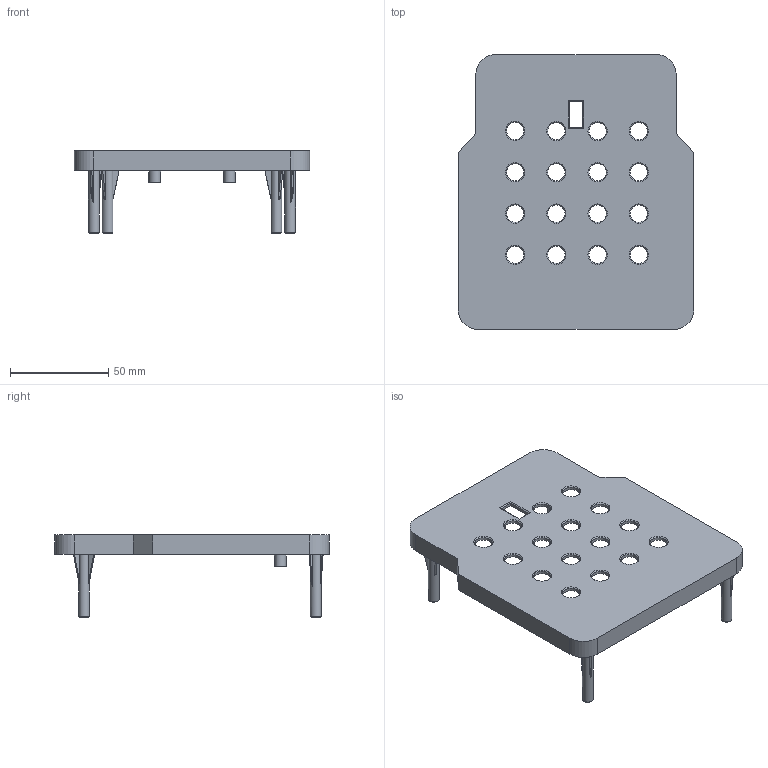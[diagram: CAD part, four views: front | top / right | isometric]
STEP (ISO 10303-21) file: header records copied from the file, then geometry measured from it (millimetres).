
FILE_DESCRIPTION (( 'STEP AP203' ), '1' );
FILE_NAME ('v4v3v2tampa.STEP', '2026-08-19T20:49:51', ( '' ), ( '' ), 'SwSTEP 2.0', 'SolidWorks 2024', '' );
FILE_SCHEMA (( 'CONFIG_CONTROL_DESIGN' ));
Length unit declared in the file: millimetre
Products named in the file (1): v4v3v2tampa
Bounding box: 120 x 140 x 42 mm (x, y, z)
Volume: 41855 mm3; surface area: 43592.2 mm2
Topology: 1 solids, 1 shells, 188 faces, 477 edges, 302 vertices
Faces by surface type: plane 82, cylinder 70, cone 24, torus 12
Full cylindrical faces by diameter (mm): 1.8 x4, 5.5 x4, 6 x2, 8.8 x16
Entity records: 5581 total; most frequent: CARTESIAN_POINT 1256, ORIENTED_EDGE 854, DIRECTION 836, EDGE_CURVE 427, AXIS2_PLACEMENT_3D 306, VERTEX_POINT 298, EDGE_LOOP 279, VECTOR 224
